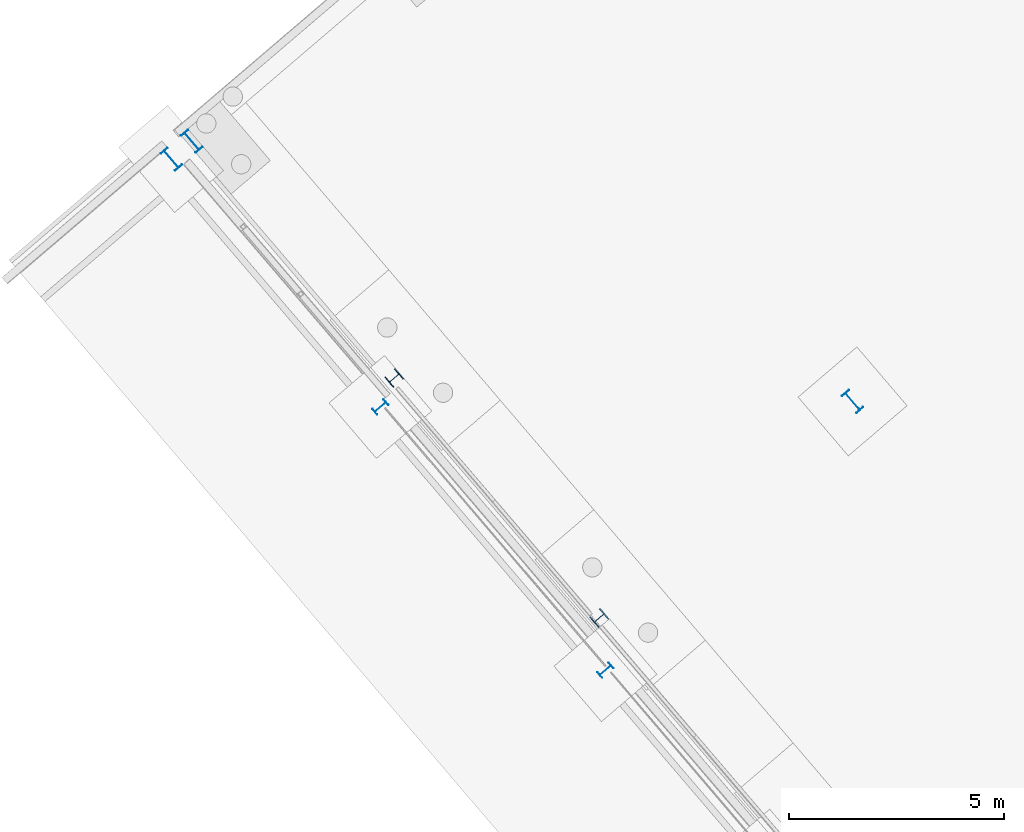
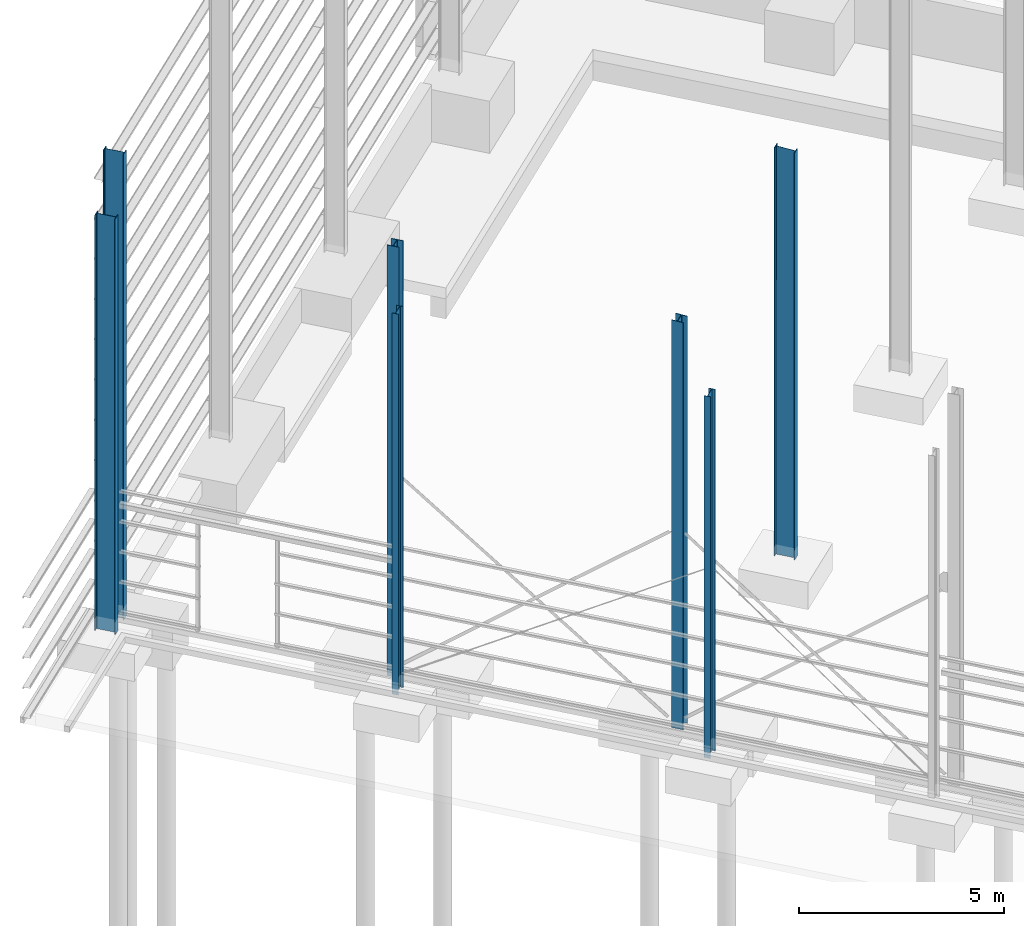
# One storey, part 3 of 41: 7 columns.
"""IFC2X3 building model written with IfcOpenShell, lengths in millimetres."""

from ifc_helpers import new_model, entity, si_unit, converted_unit, derived_unit, direction, frame, frame_2d, origin, origin_2d, place, context, subcontext, project, spatial, polyline, circle_curve, parameter, trimmed, segment, composite_curve, i_section, outline, extrude, clip, halfspace, source, transform, mapped, material, type_object, type_shapes, element, save


model = new_model("IFC2X3")

# Units and contexts
model_context = context("Model", 3, precision=0.01, world=origin(), true_north=direction((6.123031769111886e-17, 1.0)))
body_context = subcontext(model_context, "Body", "Model", "MODEL_VIEW")
ifc_project = project(units=[si_unit("LENGTHUNIT", "METRE", prefix="MILLI"), si_unit("AREAUNIT", "SQUARE_METRE"), si_unit("VOLUMEUNIT", "CUBIC_METRE"), converted_unit("PLANEANGLEUNIT", "DEGREE", entity("IfcRatioMeasure", 0.017453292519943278), si_unit("PLANEANGLEUNIT", "RADIAN"), dimensions=[0, 0, 0, 0, 0, 0, 0]), si_unit("MASSUNIT", "GRAM", prefix="KILO"), derived_unit("MASSDENSITYUNIT", [(si_unit("MASSUNIT", "GRAM", prefix="KILO"), 1), (si_unit("LENGTHUNIT", "METRE"), -3)]), derived_unit("MOMENTOFINERTIAUNIT", [(si_unit("LENGTHUNIT", "METRE"), 4)]), si_unit("TIMEUNIT", "SECOND"), si_unit("FREQUENCYUNIT", "HERTZ"), si_unit("THERMODYNAMICTEMPERATUREUNIT", "DEGREE_CELSIUS"), derived_unit("THERMALTRANSMITTANCEUNIT", [(si_unit("MASSUNIT", "GRAM", prefix="KILO"), 1), (si_unit("THERMODYNAMICTEMPERATUREUNIT", "KELVIN"), -1), (si_unit("TIMEUNIT", "SECOND"), -3)]), derived_unit("VOLUMETRICFLOWRATEUNIT", [(si_unit("LENGTHUNIT", "METRE"), 3), (si_unit("TIMEUNIT", "SECOND"), -1)]), derived_unit("MASSFLOWRATEUNIT", [(si_unit("MASSUNIT", "GRAM", prefix="KILO"), 1), (si_unit("TIMEUNIT", "SECOND"), -1)]), derived_unit("ROTATIONALFREQUENCYUNIT", [(si_unit("TIMEUNIT", "SECOND"), -1)]), si_unit("ELECTRICCURRENTUNIT", "AMPERE"), si_unit("ELECTRICVOLTAGEUNIT", "VOLT"), si_unit("POWERUNIT", "WATT"), si_unit("FORCEUNIT", "NEWTON", prefix="KILO"), si_unit("ILLUMINANCEUNIT", "LUX"), si_unit("LUMINOUSFLUXUNIT", "LUMEN"), si_unit("LUMINOUSINTENSITYUNIT", "CANDELA"), derived_unit("USERDEFINED", [(si_unit("MASSUNIT", "GRAM", prefix="KILO"), -1), (si_unit("LENGTHUNIT", "METRE"), -2), (si_unit("TIMEUNIT", "SECOND"), 3), (si_unit("LUMINOUSFLUXUNIT", "LUMEN"), 1)]), derived_unit("SOUNDPOWERUNIT", [(si_unit("MASSUNIT", "GRAM", prefix="KILO"), 1), (si_unit("LENGTHUNIT", "METRE"), 2), (si_unit("TIMEUNIT", "SECOND"), -3)]), derived_unit("LINEARVELOCITYUNIT", [(si_unit("LENGTHUNIT", "METRE"), 1), (si_unit("TIMEUNIT", "SECOND"), -1)]), si_unit("PRESSUREUNIT", "PASCAL"), derived_unit("USERDEFINED", [(si_unit("LENGTHUNIT", "METRE"), -2), (si_unit("MASSUNIT", "GRAM", prefix="KILO"), 1), (si_unit("TIMEUNIT", "SECOND"), -2)]), derived_unit("LINEARFORCEUNIT", [(si_unit("MASSUNIT", "GRAM", prefix="KILO"), 1), (si_unit("LENGTHUNIT", "METRE"), 1), (si_unit("TIMEUNIT", "SECOND"), -2), (si_unit("LENGTHUNIT", "METRE"), -1)]), derived_unit("PLANARFORCEUNIT", [(si_unit("MASSUNIT", "GRAM", prefix="KILO"), 1), (si_unit("LENGTHUNIT", "METRE"), 1), (si_unit("TIMEUNIT", "SECOND"), -2), (si_unit("LENGTHUNIT", "METRE"), -2)])], contexts=[model_context])

# Site, building, storey
site_placement = place(None, frame((962.4174930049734, -6014.433753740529, 0.0), z_axis=(0.0, 0.0, 1.0), x_axis=(0.7601792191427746, 0.649713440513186, 0.0)))
site = spatial("IfcSite", under=ifc_project, at=site_placement, Name="Default", CompositionType="ELEMENT")
building_placement = place(site_placement, origin())
building = spatial("IfcBuilding", under=site, at=building_placement, CompositionType="ELEMENT")
storey_placement = place(building_placement, origin())
storey = spatial("IfcBuildingStorey", under=building, at=storey_placement, Name="Datum", CompositionType="ELEMENT", Elevation=0.0)

# Columns
ifc_material_1 = material(Name="Metal - Steel - ASTM A36")
column_type_1 = type_object("IfcColumnType", Name="ADSK_AU_UC-Universal Columns-Column (AS 3679_1):310UC118", PredefinedType="COLUMN", material=ifc_material_1)
shared_shape_1 = source(origin(), body_context, "Body", "SweptSolid", [
    clip(extrude(i_section(OverallWidth=306.9999999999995, OverallDepth=314.60000000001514, WebThickness=11.900000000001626, FlangeThickness=18.70000000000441, FilletRadius=16.49999999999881, at=frame_2d((2.1742607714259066e-12, -1.7323031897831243e-11), x_axis=(1.0, 0.0))), frame((154571.26020471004, -11221.928082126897, -200.0), z_axis=(0.0, 0.0, 1.0), x_axis=(0.0, -1.0, 0.0)), (0.0, 0.0, 1.0), 12140.631987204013), halfspace(frame((166721.26020471, -11375.428082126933, 11919.164455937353), z_axis=(0.0, -0.06975647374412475, 0.9975640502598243), x_axis=(-1.0, 0.0, 0.0)), False)),
])
type_shapes(column_type_1, [shared_shape_1])
column_1_placement = place(building_placement, origin())
element("IfcColumn", 1, at=column_1_placement, inside=storey, type_object=column_type_1, material=ifc_material_1, Name="ADSK_AU_UC-Universal Columns-Column (AS 3679_1):310UC118", ObjectType="ADSK_AU_UC-Universal Columns-Column (AS 3679_1):310UC118", context=body_context, shape_type="MappedRepresentation", body=[
    mapped(shared_shape_1, transform((0.0, 0.0, 0.0), scale=1.0)),
])
ifc_material_2 = material(Name="Metal - Steel - 300 MPa")
column_type_2 = type_object("IfcColumnType", Name="ADSK_AU_UC-Universal Columns-Column (AS 3679_1):310UC118", PredefinedType="COLUMN", material=ifc_material_2)
shared_shape_2 = source(origin(), body_context, "Body", "SweptSolid", [
    extrude(outline(composite_curve([segment(polyline([(138.6, -153.49999999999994), (157.3, -153.49999999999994)]), True, "CONTINUOUS"), segment(polyline([(157.3, -153.49999999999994), (157.3, 153.49999999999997)]), True, "CONTINUOUS"), segment(polyline([(157.3, 153.49999999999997), (138.6, 153.49999999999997)]), True, "CONTINUOUS"), segment(polyline([(138.6, 153.49999999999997), (138.6, 22.45000000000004)]), True, "CONTINUOUS"), segment(trimmed(circle_curve(frame_2d((122.10000000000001, 22.44999999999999), x_axis=(1.0, 0.0)), 16.499999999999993), [parameter(269.9999999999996)], [parameter(0.0)], True, "PARAMETER"), False, "CONTINUOUS"), segment(polyline([(122.09999999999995, 5.95), (-122.09999999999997, 5.95)]), True, "CONTINUOUS"), segment(trimmed(circle_curve(frame_2d((-122.09999999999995, 22.450000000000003), x_axis=(0.0, -1.0)), 16.500000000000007), [parameter(269.9999999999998)], [parameter(0.0)], True, "PARAMETER"), False, "CONTINUOUS"), segment(polyline([(-138.59999999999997, 22.45000000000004), (-138.59999999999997, 153.49999999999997)]), True, "CONTINUOUS"), segment(polyline([(-138.59999999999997, 153.49999999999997), (-157.29999999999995, 153.49999999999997)]), True, "CONTINUOUS"), segment(polyline([(-157.29999999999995, 153.49999999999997), (-157.29999999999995, -153.49999999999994)]), True, "CONTINUOUS"), segment(polyline([(-157.29999999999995, -153.49999999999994), (-138.59999999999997, -153.49999999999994)]), True, "CONTINUOUS"), segment(polyline([(-138.59999999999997, -153.49999999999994), (-138.59999999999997, -22.449999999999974)]), True, "CONTINUOUS"), segment(trimmed(circle_curve(frame_2d((-122.09999999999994, -22.449999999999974), x_axis=(-1.0, 0.0)), 16.50000000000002), [parameter(269.9999999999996)], [parameter(0.0)], True, "PARAMETER"), False, "CONTINUOUS"), segment(polyline([(-122.09999999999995, -5.950000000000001), (122.10000000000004, -5.950000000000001)]), True, "CONTINUOUS"), segment(trimmed(circle_curve(frame_2d((122.10000000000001, -22.45000000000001), x_axis=(0.0, 1.0)), 16.500000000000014), [parameter(269.9999999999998)], [parameter(0.0)], True, "PARAMETER"), False, "CONTINUOUS"), segment(polyline([(138.6, -22.449999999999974), (138.6, -153.49999999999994)]), True, "CONTINUOUS")], self_intersect=False)), frame((0.0, 0.0, -370.0), z_axis=(0.0, 0.0, 1.0), x_axis=(0.0, -1.0, 0.0)), (0.0, 0.0, 1.0), 12820.000000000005),
])
type_shapes(column_type_2, [shared_shape_2])
column_2_placement = place(building_placement, frame((154571.26020471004, -3867.5905821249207, 0.0), z_axis=(0.0, 0.0, 1.0), x_axis=(0.0, 1.0, 0.0)))
element("IfcColumn", 2, at=column_2_placement, inside=storey, type_object=column_type_2, material=ifc_material_2, Name="ADSK_AU_UC-Universal Columns-Column (AS 3679_1):310UC118", ObjectType="ADSK_AU_UC-Universal Columns-Column (AS 3679_1):310UC118", context=body_context, shape_type="MappedRepresentation", body=[
    mapped(shared_shape_2, transform((0.0, 0.0, 0.0), scale=1.0)),
])
column_type_3 = type_object("IfcColumnType", Name="ADSK_AU_UB-Universal Beams-Column (AS 3679_1):530UB92.4", PredefinedType="COLUMN", material=ifc_material_2)
shared_shape_3 = source(origin(), body_context, "Body", "SweptSolid", [
    extrude(outline(composite_curve([segment(polyline([(250.89999999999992, -104.49999999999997), (266.5, -104.49999999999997)]), True, "CONTINUOUS"), segment(polyline([(266.5, -104.49999999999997), (266.5, 104.49999999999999)]), True, "CONTINUOUS"), segment(polyline([(266.5, 104.49999999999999), (250.89999999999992, 104.49999999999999)]), True, "CONTINUOUS"), segment(polyline([(250.89999999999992, 104.49999999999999), (250.89999999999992, 19.099999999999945)]), True, "CONTINUOUS"), segment(trimmed(circle_curve(frame_2d((236.89999999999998, 19.099999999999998), x_axis=(1.0, 0.0)), 13.999999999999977), [parameter(269.9999999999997)], [parameter(0.0)], True, "PARAMETER"), False, "CONTINUOUS"), segment(polyline([(236.90000000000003, 5.099999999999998), (-236.89999999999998, 5.099999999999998)]), True, "CONTINUOUS"), segment(trimmed(circle_curve(frame_2d((-236.89999999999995, 19.100000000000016), x_axis=(0.0, -1.0)), 13.999999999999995), [parameter(269.9999999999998)], [parameter(0.0)], True, "PARAMETER"), False, "CONTINUOUS"), segment(polyline([(-250.89999999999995, 19.10000000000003), (-250.89999999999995, 104.49999999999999)]), True, "CONTINUOUS"), segment(polyline([(-250.89999999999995, 104.49999999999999), (-266.49999999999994, 104.49999999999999)]), True, "CONTINUOUS"), segment(polyline([(-266.49999999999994, 104.49999999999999), (-266.49999999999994, -104.49999999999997)]), True, "CONTINUOUS"), segment(polyline([(-266.49999999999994, -104.49999999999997), (-250.89999999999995, -104.49999999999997)]), True, "CONTINUOUS"), segment(polyline([(-250.89999999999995, -104.49999999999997), (-250.89999999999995, -19.099999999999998)]), True, "CONTINUOUS"), segment(trimmed(circle_curve(frame_2d((-236.89999999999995, -19.099999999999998), x_axis=(-1.0, 0.0)), 13.999999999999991), [parameter(269.99999999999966)], [parameter(0.0)], True, "PARAMETER"), False, "CONTINUOUS"), segment(polyline([(-236.89999999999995, -5.100000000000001), (236.89999999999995, -5.100000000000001)]), True, "CONTINUOUS"), segment(trimmed(circle_curve(frame_2d((236.89999999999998, -19.099999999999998), x_axis=(0.0, 1.0)), 14.0), [parameter(269.99999999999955)], [parameter(0.0)], True, "PARAMETER"), False, "CONTINUOUS"), segment(polyline([(250.89999999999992, -19.099999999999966), (250.89999999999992, -104.49999999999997)]), True, "CONTINUOUS")], self_intersect=False)), frame((0.0, 0.0, -370.0), z_axis=(0.0, 0.0, 1.0), x_axis=(0.0, -1.0, 0.0)), (0.0, 0.0, 1.0), 12370.000000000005),
])
type_shapes(column_type_3, [shared_shape_3])
column_3_placement = place(building_placement, frame((153938.96020471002, 3384.021917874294, 0.0)))
element("IfcColumn", 3, at=column_3_placement, inside=storey, type_object=column_type_3, material=ifc_material_2, Name="ADSK_AU_UB-Universal Beams-Column (AS 3679_1):530UB92.4", ObjectType="ADSK_AU_UB-Universal Beams-Column (AS 3679_1):530UB92.4", context=body_context, shape_type="MappedRepresentation", body=[
    mapped(shared_shape_3, transform((0.0, 0.0, 0.0), scale=1.0)),
])
column_type_4 = type_object("IfcColumnType", Name="ADSK_AU_UB-Universal Beams-Column (AS 3679_1):360UB44.7 (EXISTING)", PredefinedType="COLUMN", material=ifc_material_2)
shared_shape_4 = source(origin(), body_context, "Body", "SweptSolid", [
    extrude(outline(composite_curve([segment(polyline([(166.3, -85.49999999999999), (176.0, -85.49999999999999)]), True, "CONTINUOUS"), segment(polyline([(176.0, -85.49999999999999), (176.0, 85.49999999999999)]), True, "CONTINUOUS"), segment(polyline([(176.0, 85.49999999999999), (166.3, 85.49999999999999)]), True, "CONTINUOUS"), segment(polyline([(166.3, 85.49999999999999), (166.3, 14.849999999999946)]), True, "CONTINUOUS"), segment(trimmed(circle_curve(frame_2d((154.90000000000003, 14.849999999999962), x_axis=(1.0, 0.0)), 11.39999999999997), [parameter(269.99999999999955)], [parameter(0.0)], True, "PARAMETER"), False, "CONTINUOUS"), segment(polyline([(154.90000000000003, 3.4499999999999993), (-154.89999999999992, 3.4499999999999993)]), True, "CONTINUOUS"), segment(trimmed(circle_curve(frame_2d((-154.89999999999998, 14.850000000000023), x_axis=(0.0, -1.0)), 11.40000000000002), [parameter(269.99999999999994)], [parameter(0.0)], True, "PARAMETER"), False, "CONTINUOUS"), segment(polyline([(-166.3, 14.850000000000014), (-166.3, 85.49999999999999)]), True, "CONTINUOUS"), segment(polyline([(-166.3, 85.49999999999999), (-176.0, 85.49999999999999)]), True, "CONTINUOUS"), segment(polyline([(-176.0, 85.49999999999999), (-176.0, -85.49999999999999)]), True, "CONTINUOUS"), segment(polyline([(-176.0, -85.49999999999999), (-166.3, -85.49999999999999)]), True, "CONTINUOUS"), segment(polyline([(-166.3, -85.49999999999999), (-166.3, -14.850000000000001)]), True, "CONTINUOUS"), segment(trimmed(circle_curve(frame_2d((-154.89999999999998, -14.85000000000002), x_axis=(-1.0, 0.0)), 11.400000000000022), [parameter(269.99999999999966)], [parameter(0.0)], True, "PARAMETER"), False, "CONTINUOUS"), segment(polyline([(-154.89999999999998, -3.4499999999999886), (154.89999999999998, -3.4499999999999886)]), True, "CONTINUOUS"), segment(trimmed(circle_curve(frame_2d((154.90000000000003, -14.849999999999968), x_axis=(0.0, 1.0)), 11.399999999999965), [parameter(269.99999999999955)], [parameter(0.0)], True, "PARAMETER"), False, "CONTINUOUS"), segment(polyline([(166.3, -14.849999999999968), (166.3, -85.49999999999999)]), True, "CONTINUOUS")], self_intersect=False)), frame((0.0, 0.0, -370.0), z_axis=(0.0, 0.0, 1.0), x_axis=(0.0, -1.0, 0.0)), (0.0, 0.0, 1.0), 10770.000000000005),
])
type_shapes(column_type_4, [shared_shape_4])
column_4_placement = place(building_placement, frame((153889.9602047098, -12241.928082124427, 0.0), z_axis=(0.0, 0.0, 1.0), x_axis=(0.0, 1.0, 0.0)))
element("IfcColumn", 4, at=column_4_placement, inside=storey, type_object=column_type_4, material=ifc_material_2, Name="ADSK_AU_UB-Universal Beams-Column (AS 3679_1):360UB44.7 (EXISTING)", ObjectType="ADSK_AU_UB-Universal Beams-Column (AS 3679_1):360UB44.7 (EXISTING)", context=body_context, shape_type="MappedRepresentation", body=[
    mapped(shared_shape_4, transform((0.0, 0.0, 0.0), scale=1.0)),
])
column_type_5 = type_object("IfcColumnType", Name="ADSK_AU_UB-Universal Beams-Column (AS 3679_1):360UB44.7 (EXISTING)", PredefinedType="COLUMN", material=ifc_material_2)
shared_shape_5 = source(origin(), body_context, "Body", "SweptSolid", [
    extrude(outline(composite_curve([segment(polyline([(166.3, -85.49999999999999), (176.0, -85.49999999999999)]), True, "CONTINUOUS"), segment(polyline([(176.0, -85.49999999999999), (176.0, 85.49999999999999)]), True, "CONTINUOUS"), segment(polyline([(176.0, 85.49999999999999), (166.3, 85.49999999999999)]), True, "CONTINUOUS"), segment(polyline([(166.3, 85.49999999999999), (166.3, 14.849999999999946)]), True, "CONTINUOUS"), segment(trimmed(circle_curve(frame_2d((154.90000000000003, 14.849999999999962), x_axis=(1.0, 0.0)), 11.39999999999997), [parameter(269.99999999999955)], [parameter(0.0)], True, "PARAMETER"), False, "CONTINUOUS"), segment(polyline([(154.90000000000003, 3.4499999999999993), (-154.89999999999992, 3.4499999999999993)]), True, "CONTINUOUS"), segment(trimmed(circle_curve(frame_2d((-154.89999999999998, 14.850000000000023), x_axis=(0.0, -1.0)), 11.40000000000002), [parameter(269.99999999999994)], [parameter(0.0)], True, "PARAMETER"), False, "CONTINUOUS"), segment(polyline([(-166.3, 14.850000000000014), (-166.3, 85.49999999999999)]), True, "CONTINUOUS"), segment(polyline([(-166.3, 85.49999999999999), (-176.0, 85.49999999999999)]), True, "CONTINUOUS"), segment(polyline([(-176.0, 85.49999999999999), (-176.0, -85.49999999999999)]), True, "CONTINUOUS"), segment(polyline([(-176.0, -85.49999999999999), (-166.3, -85.49999999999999)]), True, "CONTINUOUS"), segment(polyline([(-166.3, -85.49999999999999), (-166.3, -14.850000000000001)]), True, "CONTINUOUS"), segment(trimmed(circle_curve(frame_2d((-154.89999999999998, -14.85000000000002), x_axis=(-1.0, 0.0)), 11.400000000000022), [parameter(269.99999999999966)], [parameter(0.0)], True, "PARAMETER"), False, "CONTINUOUS"), segment(polyline([(-154.89999999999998, -3.4499999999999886), (154.89999999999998, -3.4499999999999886)]), True, "CONTINUOUS"), segment(trimmed(circle_curve(frame_2d((154.90000000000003, -14.849999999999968), x_axis=(0.0, 1.0)), 11.399999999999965), [parameter(269.99999999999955)], [parameter(0.0)], True, "PARAMETER"), False, "CONTINUOUS"), segment(polyline([(166.3, -14.849999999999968), (166.3, -85.49999999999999)]), True, "CONTINUOUS")], self_intersect=False)), frame((0.0, 0.0, -370.0), z_axis=(0.0, 0.0, 1.0), x_axis=(0.0, -1.0, 0.0)), (0.0, 0.0, 1.0), 11345.000000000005),
])
type_shapes(column_type_5, [shared_shape_5])
column_5_placement = place(building_placement, frame((153889.96020470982, -4171.928082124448, 0.0), z_axis=(0.0, 0.0, 1.0), x_axis=(0.0, 1.0, 0.0)))
element("IfcColumn", 5, at=column_5_placement, inside=storey, type_object=column_type_5, material=ifc_material_2, Name="ADSK_AU_UB-Universal Beams-Column (AS 3679_1):360UB44.7 (EXISTING)", ObjectType="ADSK_AU_UB-Universal Beams-Column (AS 3679_1):360UB44.7 (EXISTING)", context=body_context, shape_type="MappedRepresentation", body=[
    mapped(shared_shape_5, transform((0.0, 0.0, 0.0), scale=1.0)),
])
column_type_6 = type_object("IfcColumnType", Name="ADSK_AU_UB-Universal Beams-Column (AS 3679_1):530UB92.4", PredefinedType="COLUMN", material=ifc_material_2)
shared_shape_6 = source(origin(), body_context, "Body", "SweptSolid", [
    clip(extrude(outline(composite_curve([segment(polyline([(250.90000000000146, -104.49999999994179), (266.50000000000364, -104.49999999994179)]), True, "CONTINUOUS"), segment(polyline([(266.5000000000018, -104.49999999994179), (266.5000000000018, 104.50000000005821)]), True, "CONTINUOUS"), segment(polyline([(266.50000000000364, 104.5000000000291), (250.90000000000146, 104.5000000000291)]), True, "CONTINUOUS"), segment(polyline([(250.90000000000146, 104.5000000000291), (250.90000000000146, 19.100000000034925)]), True, "CONTINUOUS"), segment(trimmed(circle_curve(frame_2d((236.90000000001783, 19.100000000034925), x_axis=(1.0, 0.0)), 13.999999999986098), [parameter(269.99999999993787)], [parameter(0.0)], True, "PARAMETER"), False, "CONTINUOUS"), segment(polyline([(236.9000000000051, 5.100000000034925), (-236.89999999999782, 5.100000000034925)]), True, "CONTINUOUS"), segment(trimmed(circle_curve(frame_2d((-236.9000000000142, 19.100000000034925), x_axis=(0.0, -1.0)), 13.999999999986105), [parameter(269.99999999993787)], [parameter(0.0)], True, "PARAMETER"), False, "CONTINUOUS"), segment(polyline([(-250.89999999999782, 19.100000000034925), (-250.89999999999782, 104.5000000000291)]), True, "CONTINUOUS"), segment(polyline([(-250.89999999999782, 104.5000000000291), (-266.5, 104.5000000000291)]), True, "CONTINUOUS"), segment(polyline([(-266.4999999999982, 104.5000000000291), (-266.4999999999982, -104.4999999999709)]), True, "CONTINUOUS"), segment(polyline([(-266.5, -104.49999999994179), (-250.89999999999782, -104.49999999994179)]), True, "CONTINUOUS"), segment(polyline([(-250.89999999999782, -104.49999999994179), (-250.89999999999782, -19.099999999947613)]), True, "CONTINUOUS"), segment(trimmed(circle_curve(frame_2d((-236.9000000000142, -19.099999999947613), x_axis=(-1.0, 0.0)), 13.999999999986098), [parameter(269.99999999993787)], [parameter(0.0)], True, "PARAMETER"), False, "CONTINUOUS"), segment(polyline([(-236.89999999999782, -5.099999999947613), (236.9000000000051, -5.099999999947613)]), True, "CONTINUOUS"), segment(trimmed(circle_curve(frame_2d((236.90000000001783, -19.099999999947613), x_axis=(0.0, 1.0)), 13.999999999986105), [parameter(269.99999999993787)], [parameter(0.0)], True, "PARAMETER"), False, "CONTINUOUS"), segment(polyline([(250.90000000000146, -19.099999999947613), (250.90000000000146, -104.49999999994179)]), True, "CONTINUOUS")], self_intersect=False)), frame((162338.96020470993, -11221.928082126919, -286.0), z_axis=(0.0, 0.0, 1.0), x_axis=(0.0, -1.0, 0.0)), (0.0, 0.0, 1.0), 12159.952039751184), halfspace(frame((150052.96020470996, -10955.428082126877, 11873.952039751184), z_axis=(0.0, -0.06975647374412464, 0.9975640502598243), x_axis=(1.0, 0.0, 0.0)), False)),
])
type_shapes(column_type_6, [shared_shape_6])
column_6_placement = place(storey_placement, origin())
element("IfcColumn", 6, at=column_6_placement, inside=storey, type_object=column_type_6, material=ifc_material_2, Name="ADSK_AU_UB-Universal Beams-Column (AS 3679_1):530UB92.4", ObjectType="ADSK_AU_UB-Universal Beams-Column (AS 3679_1):530UB92.4", context=body_context, shape_type="MappedRepresentation", body=[
    mapped(shared_shape_6, transform((0.0, 0.0, 0.0), scale=1.0)),
])
column_type_7 = type_object("IfcColumnType", Name="ADSK_AU_UB-Universal Beams-Column (AS 3679_1):530UB92.4", PredefinedType="COLUMN", material=ifc_material_2)
column_7_placement = place(building_placement, frame((154571.26020471, 3392.571917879, 13510.0)))
element("IfcColumn", 7, at=column_7_placement, inside=storey, type_object=column_type_7, material=ifc_material_2, Name="ADSK_AU_UB-Universal Beams-Column (AS 3679_1):530UB92.4", ObjectType="530UB92.4", context=model_context, shape_type="SweptSolid", body=[
    extrude(i_section(OverallWidth=209.0, OverallDepth=533.0, WebThickness=10.2, FlangeThickness=15.6, FilletRadius=14.0, at=origin_2d()), origin(), (0.0, 0.0, -1.0), 13880.0),
])

save(model, "model.ifc")
